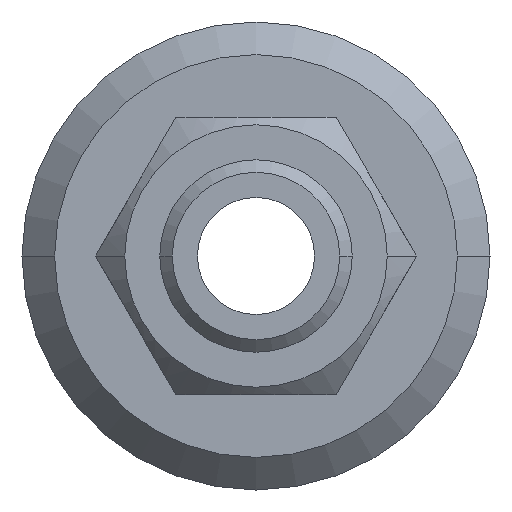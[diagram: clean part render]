
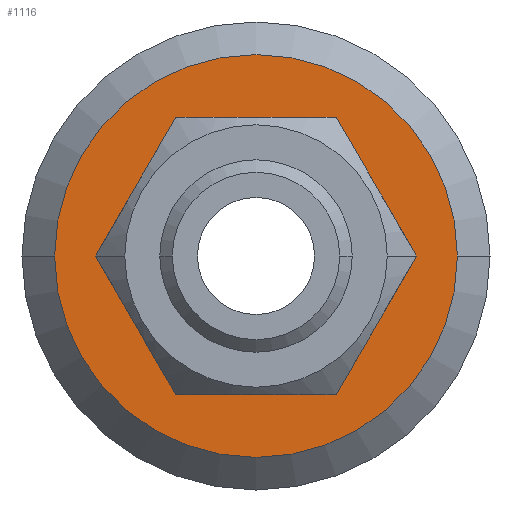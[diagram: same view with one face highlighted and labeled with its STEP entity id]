
A CAD part, left-side view. The second image highlights one B-rep face of the part: STEP entity #1116.
In plain terms, the highlighted planar face has unit normal (-1, 0, 0).
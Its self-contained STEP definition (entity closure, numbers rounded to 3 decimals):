
#224=CARTESIAN_POINT('',(18.,0.,0.));
#225=DIRECTION('',(-1.,0.,0.));
#226=DIRECTION('',(0.,0.,-1.));
#227=AXIS2_PLACEMENT_3D('',#224,#225,#226);
#229=CARTESIAN_POINT('',(18.,0.,0.));
#230=DIRECTION('',(1.,0.,0.));
#231=DIRECTION('',(0.,0.,-1.));
#232=AXIS2_PLACEMENT_3D('',#229,#230,#231);
#234=CARTESIAN_POINT('',(18.,0.,0.));
#235=DIRECTION('',(1.,0.,0.));
#236=DIRECTION('',(0.,1.,0.));
#237=AXIS2_PLACEMENT_3D('',#234,#235,#236);
#239=CARTESIAN_POINT('',(18.,0.,0.));
#240=DIRECTION('',(-1.,0.,0.));
#241=DIRECTION('',(0.,1.,0.));
#242=AXIS2_PLACEMENT_3D('',#239,#240,#241);
#574=CARTESIAN_POINT('',(18.,13.77,0.));
#575=VERTEX_POINT('',#574);
#602=CARTESIAN_POINT('',(18.,-13.77,0.));
#603=VERTEX_POINT('',#602);
#633=CARTESIAN_POINT('',(18.,0.,-7.5));
#635=VERTEX_POINT('',#633);
#637=CARTESIAN_POINT('',(18.,0.,7.5));
#639=VERTEX_POINT('',#637);
#1101=CARTESIAN_POINT('',(18.,0.,0.));
#1102=DIRECTION('',(1.,0.,0.));
#1103=DIRECTION('',(0.,-1.,0.));
#1104=AXIS2_PLACEMENT_3D('',#1101,#1102,#1103);
#1105=PLANE('',#1104);
#1106=ORIENTED_EDGE('',*,*,#1089,.T.);
#1107=ORIENTED_EDGE('',*,*,#1066,.F.);
#1108=EDGE_LOOP('',(#1106,#1107));
#1109=FACE_OUTER_BOUND('',#1108,.F.);
#1111=ORIENTED_EDGE('',*,*,#1110,.T.);
#1113=ORIENTED_EDGE('',*,*,#1112,.F.);
#1114=EDGE_LOOP('',(#1111,#1113));
#1115=FACE_BOUND('',#1114,.F.);
#1116=ADVANCED_FACE('',(#1109,#1115),#1105,.F.);
#228=CIRCLE('',#227,7.5);
#233=CIRCLE('',#232,7.5);
#238=CIRCLE('',#237,13.77);
#243=CIRCLE('',#242,13.77);
#1066=EDGE_CURVE('',#575,#603,#243,.T.);
#1089=EDGE_CURVE('',#575,#603,#238,.T.);
#1110=EDGE_CURVE('',#635,#639,#228,.T.);
#1112=EDGE_CURVE('',#635,#639,#233,.T.);
